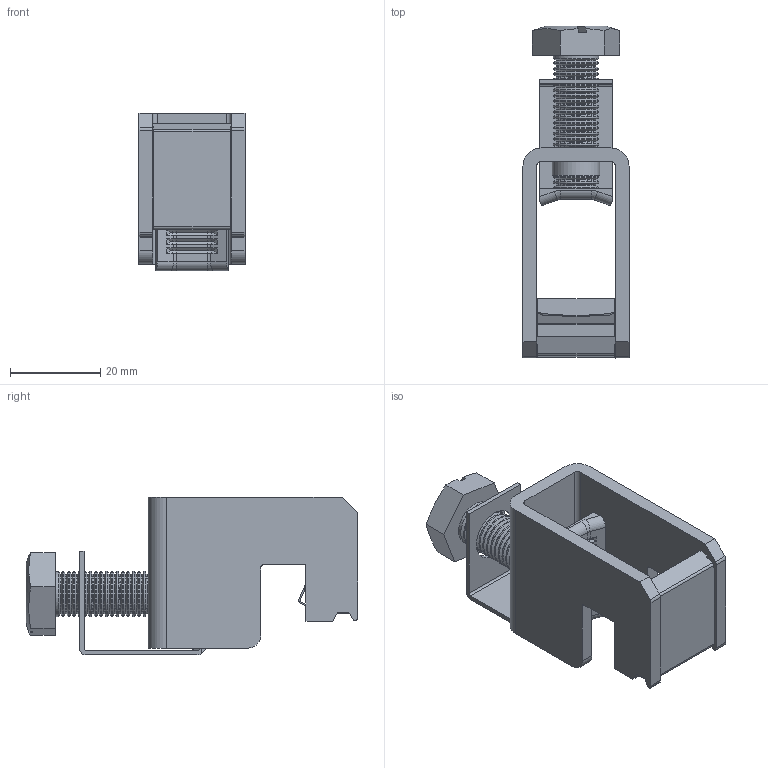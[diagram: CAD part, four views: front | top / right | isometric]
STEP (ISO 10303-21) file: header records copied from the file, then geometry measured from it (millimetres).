
FILE_DESCRIPTION (( 'STEP AP214' ), '1' );
FILE_NAME ('54203.STEP', '2020-11-23T02:41:11', ( '' ), ( '' ), 'SwSTEP 2.0', 'SolidWorks 2017', '' );
FILE_SCHEMA (( 'AUTOMOTIVE_DESIGN' ));
Length unit declared in the file: millimetre
Products named in the file (2): 54203
Bounding box: 23.5 x 73.55 x 35 mm (x, y, z)
Volume: 14130 mm3; surface area: 13782 mm2
Topology: 4 solids, 4 shells, 531 faces, 1297 edges, 786 vertices
Faces by surface type: plane 269, cylinder 128, cone 92, bspline 42
Full cylindrical faces by diameter (mm): 8.8 x25, 10 x25, 10.5 x1, 11.5 x1
Entity records: 21285 total; most frequent: CARTESIAN_POINT 4550, ORIENTED_EDGE 2386, DIRECTION 2355, EDGE_CURVE 1193, LINE 821, VECTOR 821, VERTEX_POINT 784, AXIS2_PLACEMENT_3D 767
